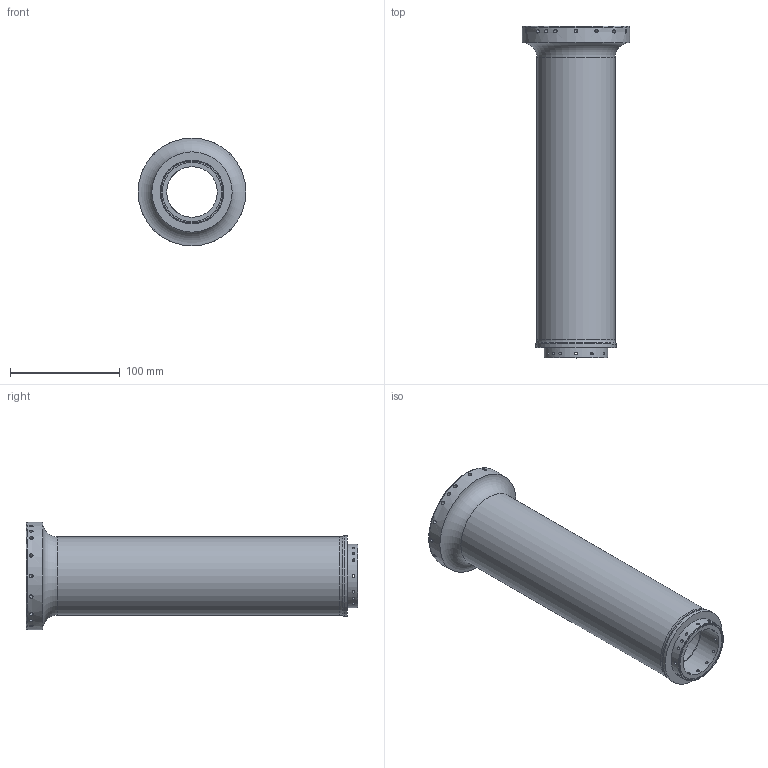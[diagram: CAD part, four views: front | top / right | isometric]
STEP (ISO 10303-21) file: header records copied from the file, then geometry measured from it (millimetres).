
FILE_DESCRIPTION (( 'STEP AP214' ), '1' );
FILE_NAME ('2-091-005 5kg三关节连杆.STEP', '2026-05-21T03:50:17', ( 'Windows User' ), ( 'P R C' ), 'SwSTEP 2.0', 'SolidWorks 2021', '' );
FILE_SCHEMA (( 'AUTOMOTIVE_DESIGN' ));
Length unit declared in the file: millimetre
Products named in the file (1): 2-091-005 5kg三关节连杆
Bounding box: 98 x 302 x 98 mm (x, y, z)
Volume: 444945.8 mm3; surface area: 137199.1 mm2
Topology: 1 solids, 1 shells, 83 faces, 208 edges, 130 vertices
Faces by surface type: cylinder 45, cone 21, plane 12, torus 5
Full cylindrical faces by diameter (mm): 2.5 x15, 3.3 x18, 46 x1, 54 x1, 56.4 x1, 58 x1, 59 x1, 71 x1, 73 x1, 91.7 x1, 95.5 x1, 98 x1
Entity records: 4151 total; most frequent: CARTESIAN_POINT 2248, DIRECTION 280, ORIENTED_EDGE 216, EDGE_LOOP 188, AXIS2_PLACEMENT_3D 134, FACE_OUTER_BOUND 131, EDGE_CURVE 108, VERTEX_POINT 102
